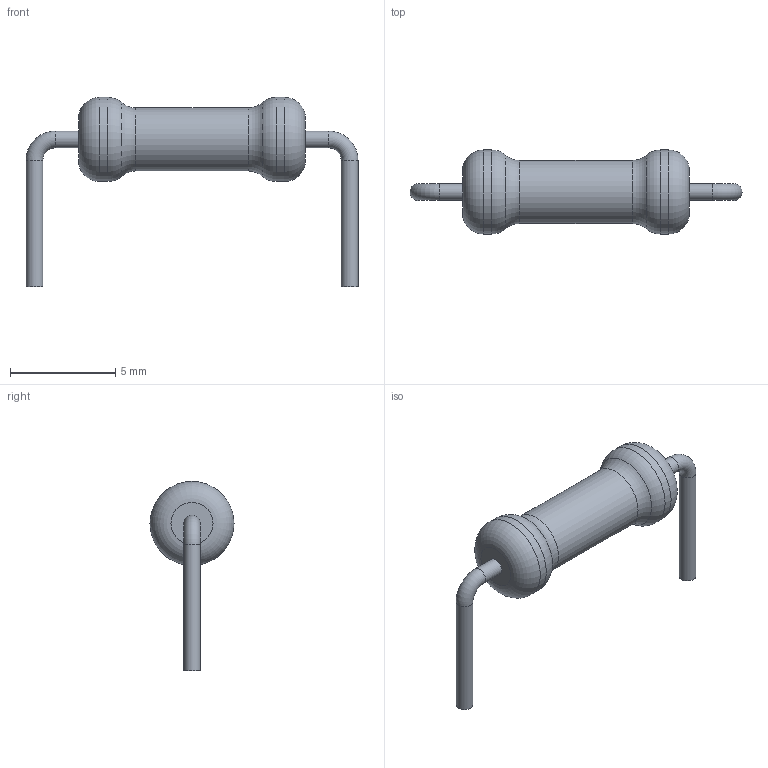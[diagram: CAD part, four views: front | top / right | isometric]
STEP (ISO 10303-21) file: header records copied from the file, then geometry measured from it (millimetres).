
FILE_DESCRIPTION(('STEP AP203'), '1');
FILE_NAME('C2-33苂-0.25', '', ('UNSPECIFIED'), ('UNSPECIFIED'), 'ASCON STEP Converter 1.6', 'ASCON Math Kernel', '');
FILE_SCHEMA(('CONFIG_CONTROL_DESIGN'));
Length unit declared in the file: millimetre
Bounding box: 15.8 x 4 x 9 mm (x, y, z)
Volume: 102.7 mm3; surface area: 174.5 mm2
Topology: 1 solids, 1 shells, 19 faces, 33 edges, 18 vertices
Faces by surface type: torus 8, cylinder 7, plane 4
Full cylindrical faces by diameter (mm): 0.8 x4, 3 x1, 4 x2
Entity records: 570 total; most frequent: DIRECTION 76, CARTESIAN_POINT 56, AXIS2_PLACEMENT_3D 38, EDGE_LOOP 36, ORIENTED_EDGE 36, FACE_OUTER_BOUND 30, COLOUR_RGB 20, FILL_AREA_STYLE_COLOUR 20
